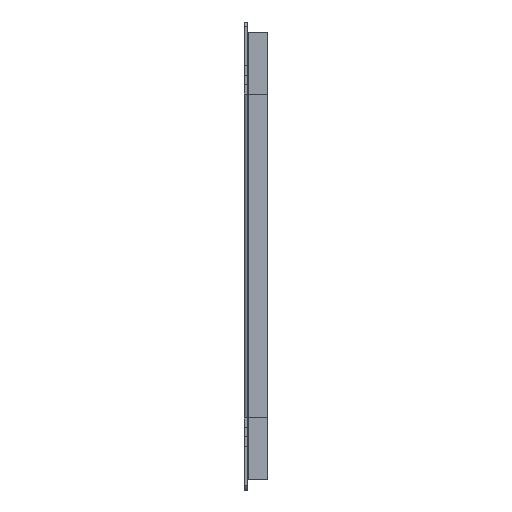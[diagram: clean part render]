
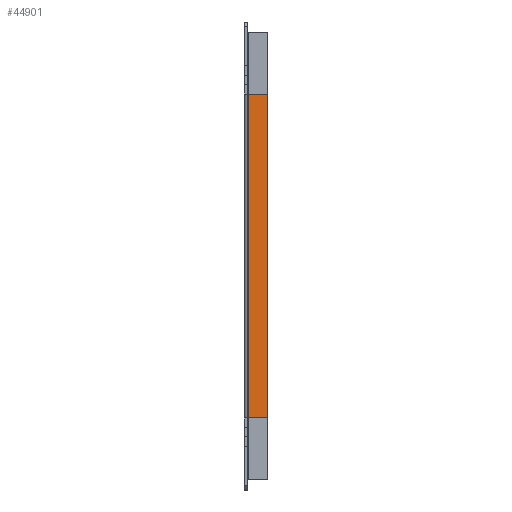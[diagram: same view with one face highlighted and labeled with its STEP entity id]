
A CAD part, left-side view. The second image highlights one B-rep face of the part: STEP entity #44901.
In plain terms, the highlighted planar face has unit normal (-1, 0, 0).
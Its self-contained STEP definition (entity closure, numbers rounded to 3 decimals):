
#43866=CARTESIAN_POINT(' ',(-99.5,-2.6,-103.5));
#43867=VERTEX_POINT(' ',#43866);
#43881=CARTESIAN_POINT(' ',(-99.5,-2.6,-103.5));
#43886=DIRECTION(' ',(0.,0.,1.));
#43891=VECTOR(' ',#43886,1.);
#43896=LINE('',#43881,#43891);
#43901=CARTESIAN_POINT(' ',(-99.5,-2.6,103.5));
#43902=VERTEX_POINT(' ',#43901);
#43906=EDGE_CURVE(' ',#43867,#43902,#43896,.T.);
#44316=CARTESIAN_POINT(' ',(-99.5,-15.,103.5));
#44321=DIRECTION(' ',(0.,1.,0.));
#44326=VECTOR(' ',#44321,1.);
#44331=LINE('',#44316,#44326);
#44336=CARTESIAN_POINT(' ',(-99.5,-15.,103.5));
#44337=VERTEX_POINT(' ',#44336);
#44341=EDGE_CURVE(' ',#44337,#43902,#44331,.T.);
#44601=CARTESIAN_POINT(' ',(-99.5,-15.,-103.5));
#44602=VERTEX_POINT(' ',#44601);
#44616=CARTESIAN_POINT(' ',(-99.5,-2.6,-103.5));
#44621=DIRECTION(' ',(0.,-1.,0.));
#44626=VECTOR(' ',#44621,1.);
#44631=LINE('',#44616,#44626);
#44636=EDGE_CURVE(' ',#43867,#44602,#44631,.T.);
#44821=DIRECTION(' ',(-1.,0.,-0.));
#44826=CARTESIAN_POINT(' ',(-99.5,-15.,-103.5));
#44831=DIRECTION(' ',(-0.,0.,1.));
#44836=AXIS2_PLACEMENT_3D(' ',#44826,#44821,#44831);
#44841=PLANE('NONE',#44836);
#44846=ORIENTED_EDGE(' ',*,*,#43906,.F.);
#44851=ORIENTED_EDGE(' ',*,*,#44636,.T.);
#44856=CARTESIAN_POINT(' ',(-99.5,-15.,-103.5));
#44861=DIRECTION(' ',(0.,0.,1.));
#44866=VECTOR(' ',#44861,1.);
#44871=LINE('',#44856,#44866);
#44876=EDGE_CURVE(' ',#44602,#44337,#44871,.T.);
#44881=ORIENTED_EDGE(' ',*,*,#44876,.T.);
#44886=ORIENTED_EDGE(' ',*,*,#44341,.T.);
#44891=EDGE_LOOP(' ',(#44846,#44851,#44881,#44886));
#44896=FACE_OUTER_BOUND(' ',#44891,.T.);
#44901=ADVANCED_FACE('NONE',(#44896),#44841,.T.);
